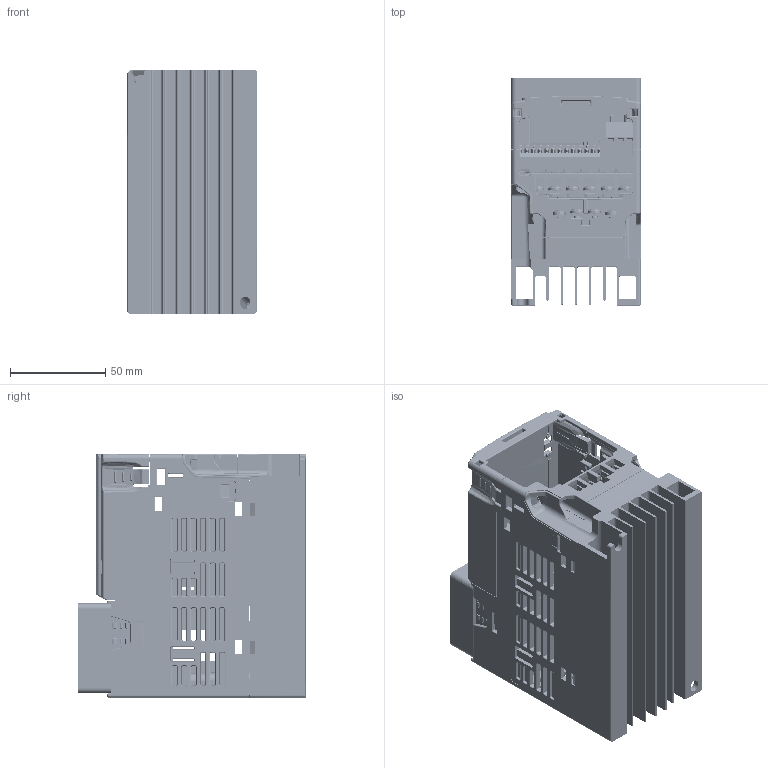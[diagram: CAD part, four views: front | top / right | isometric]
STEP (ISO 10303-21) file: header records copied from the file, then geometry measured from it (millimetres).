
FILE_DESCRIPTION((''),'2;1');
FILE_NAME('ASM0002_ASM_1_ASM_1_ASM_1_ASM','2023-12-28T09:01:57',('EDWARD.LIAO'),(''),'CREO PARAMETRIC BY PTC INC, 2022162','CREO PARAMETRIC BY PTC INC, 2022162','');
FILE_SCHEMA(('AUTOMOTIVE_DESIGN { 1 0 10303 214 1 1 1 1 }'));
Products named in the file (137): VFD-MS300-A2-PD-3D01_13_1_1_1; VFD-MS300-A2-PD-3D01_50_1_1_1; VFD-MS300-A2-PD-3D01_51_1_1_1; VFD-MS300-A2-PD-3D01_62_1_1_1; VFD-MS300-A2-PD-3D01_65_1_1_1; VFD-MS300-A2-PD-3D01_69_1_1_1; VFD-MS300-A2-PD-3D01_70_1_1_1; VFD-MS300-A2-PD-3D01_76_1_1_1; VFD-MS300-A2-PD-3D01_79_1_1_1; VFD-MS300-A2-PD-3D01_87_1_1_1; VFD-MS300-A2-PD-3D01_88_1_1_1; VFD-MS300-A2-PD-3D01_89_1_1_1; VFD-MS300-A2-PD-3D01_90_1_1_1; VFD-MS300-A2-PD-3D01_91_1_1_1; VFD-MS300-A2-PD-3D01_92_1_1_1; VFD-MS300-A2-PD-3D01_93_1_1_1; VFD-MS300-A2-PD-3D01_94_1_1_1; VFD-MS300-A2-PD-3D01_95_1_1_1; VFD-MS300-A2-PD-3D01_96_1_1_1; VFD-MS300-A2-PD-3D01_97_1_1_1; VFD-MS300-A2-PD-3D01_98_1_1_1; VFD-MS300-A2-PD-3D01_108_1_1_1; CAD0000912156_1_1; MS-CTR_2_1_1_2_1_1; MS-CTR_3_1_1_2_1_1; MS-CTR_4_1_1_2_1_1; MS-CTR_5_1_1_2_1_1; MS-CTR_6_1_1_2_1_1; MS-CTR_7_1_1_2_1_1; MS-CTR_8_1_1_2_1_1; MS-CTR_9_1_1_2_1_1; MS-CTR_10_1_1_2_1_1; MS-CTR_11_1_1_2_1_1; MS-CTR_12_1_1_2_1_1; MS-CTR_13_1_1_2_1_1; MS-CTR_14_1_1_2_1_1; MS-CTR_15_1_1_2_1_1; MS-CTR_16_1_1_2_1_1; MS-CTR_18_1_1_2_1_1; MS-CTR_19_1_1_2_1_1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
Assembly tree (136 placements, depth 6):
  ASM0002_ASM_1_ASM_1_ASM_1_ASM
    VFD-MS300-A2-PD-3D01_13_1_1_1
    VFD-MS300-A2-PD-3D01_50_1_1_1
    VFD-MS300-A2-PD-3D01_51_1_1_1
    VFD-MS300-A2-PD-3D01_62_1_1_1
    VFD-MS300-A2-PD-3D01_65_1_1_1
    VFD-MS300-A2-PD-3D01_69_1_1_1
    VFD-MS300-A2-PD-3D01_70_1_1_1
    VFD-MS300-A2-PD-3D01_76_1_1_1
    VFD-MS300-A2-PD-3D01_79_1_1_1
    VFD-MS300-A2-PD-3D01_87_1_1_1
    VFD-MS300-A2-PD-3D01_88_1_1_1
    VFD-MS300-A2-PD-3D01_89_1_1_1
    VFD-MS300-A2-PD-3D01_90_1_1_1
    VFD-MS300-A2-PD-3D01_91_1_1_1
    VFD-MS300-A2-PD-3D01_92_1_1_1
    VFD-MS300-A2-PD-3D01_93_1_1_1
    VFD-MS300-A2-PD-3D01_94_1_1_1
    VFD-MS300-A2-PD-3D01_95_1_1_1
    VFD-MS300-A2-PD-3D01_96_1_1_1
    VFD-MS300-A2-PD-3D01_97_1_1_1
    VFD-MS300-A2-PD-3D01_98_1_1_1
    VFD-MS300-A2-PD-3D01_108_1_1_1
    CAD0000912156_1_1
    MS-CTR_ASM_1_ASM
      CAD0000911465_ASM_1_1_2_ASM_1_A_ASM
        MS-CTR_2_1_1_2_1_1
        MS-CTR_3_1_1_2_1_1
        MS-CTR_4_1_1_2_1_1
        MS-CTR_5_1_1_2_1_1
        MS-CTR_6_1_1_2_1_1
        MS-CTR_7_1_1_2_1_1
        MS-CTR_8_1_1_2_1_1
        MS-CTR_9_1_1_2_1_1
        MS-CTR_10_1_1_2_1_1
        MS-CTR_11_1_1_2_1_1
        MS-CTR_12_1_1_2_1_1
        MS-CTR_13_1_1_2_1_1
        MS-CTR_14_1_1_2_1_1
        MS-CTR_15_1_1_2_1_1
        MS-CTR_16_1_1_2_1_1
        MS-CTR_18_1_1_2_1_1
        MS-CTR_19_1_1_2_1_1
        MS-CTR_21_1_1_2_1_1
        MS-CTR_22_1_1_2_1_1
        MS-CTR_23_1_1_2_1_1
        MS-CTR_24_1_1_2_1_1
        MS-CTR_26_1_1_2_1_1
        MS-CTR_27_1_1_2_1_1
        MS-CTR_29_1_1_2_1_1
        MS-CTR_30_1_1_2_1_1
        MS-CTR_31_1_1_2_1_1
        MS-CTR_32_1_1_2_1_1
        MS-CTR_34_1_1_2_1_1
        MS-CTR_35_1_1_2_1_1
        MS-CTR_37_1_1_2_1_1
        MS-CTR_38_1_1_2_1_1
        MS-CTR_39_1_1_2_1_1
        MS-CTR_40_1_1_2_1_1
        MS-CTR_42_1_1_2_1_1
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Bounding box: 68.4 x 119.3 x 128.2 mm (x, y, z)
Volume: 209467.5 mm3; surface area: 236079.6 mm2
Topology: 132 solids, 139 shells, 13551 faces, 38040 edges, 24682 vertices
Faces by surface type: plane 9086, cylinder 2887, cone 516, torus 388, extrusion 345, bspline 237, sphere 78, revolution 14
Entity records: 569147 total; most frequent: CARTESIAN_POINT 120899, ORIENTED_EDGE 75710, DIRECTION 70758, EDGE_CURVE 37875, VECTOR 27455, LINE 27110, VERTEX_POINT 24594, PRESENTATION_STYLE_ASSIGNMENT 21610
